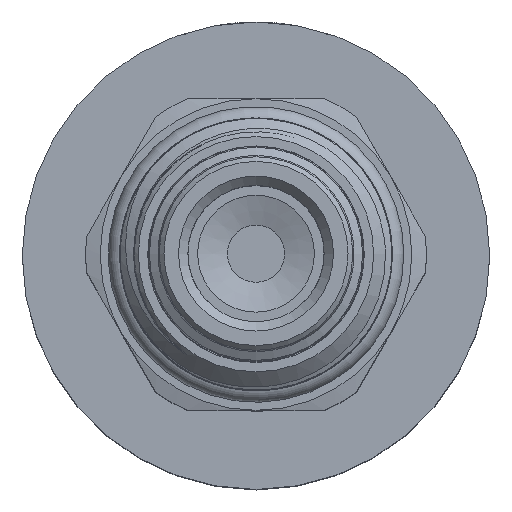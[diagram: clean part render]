
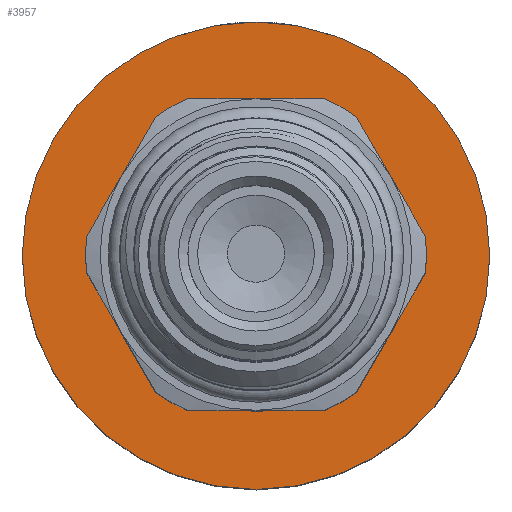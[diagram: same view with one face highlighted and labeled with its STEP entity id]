
A CAD part, top view. The second image highlights one B-rep face of the part: STEP entity #3957.
In plain terms, the highlighted planar face has unit normal (0, 0, 1).
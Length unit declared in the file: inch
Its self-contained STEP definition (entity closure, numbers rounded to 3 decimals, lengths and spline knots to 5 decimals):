
#88=FACE_BOUND('',#712,.T.);
#177=PLANE('',#4237);
#260=CIRCLE('',#4234,0.375);
#261=CIRCLE('',#4236,0.75);
#480=FACE_OUTER_BOUND('',#711,.T.);
#711=EDGE_LOOP('',(#2850));
#712=EDGE_LOOP('',(#2851));
#1606=VERTEX_POINT('',#14159);
#1607=VERTEX_POINT('',#14163);
#2090=EDGE_CURVE('',#1606,#1606,#260,.T.);
#2091=EDGE_CURVE('',#1607,#1607,#261,.T.);
#2850=ORIENTED_EDGE('',*,*,#2091,.F.);
#2851=ORIENTED_EDGE('',*,*,#2090,.T.);
#3957=ADVANCED_FACE('',(#480,#88),#177,.F.);
#4234=AXIS2_PLACEMENT_3D('',#14161,#4758,#4759);
#4236=AXIS2_PLACEMENT_3D('',#14164,#4762,#4763);
#4237=AXIS2_PLACEMENT_3D('',#14166,#4765,#4766);
#4758=DIRECTION('center_axis',(0.,0.,
-1.));
#4759=DIRECTION('ref_axis',(0.,1.,0.));
#4762=DIRECTION('center_axis',(0.,0.,
-1.));
#4763=DIRECTION('ref_axis',(0.,1.,0.));
#4765=DIRECTION('center_axis',(0.,0.,
-1.));
#4766=DIRECTION('ref_axis',(0.,1.,0.));
#14159=CARTESIAN_POINT('',(0.,-0.375,-0.395));
#14161=CARTESIAN_POINT('Origin',(0.,0.,
-0.395));
#14163=CARTESIAN_POINT('',(0.,-0.75,-0.395));
#14164=CARTESIAN_POINT('Origin',(0.,0.,
-0.395));
#14166=CARTESIAN_POINT('Origin',(0.,0.,
-0.395));
